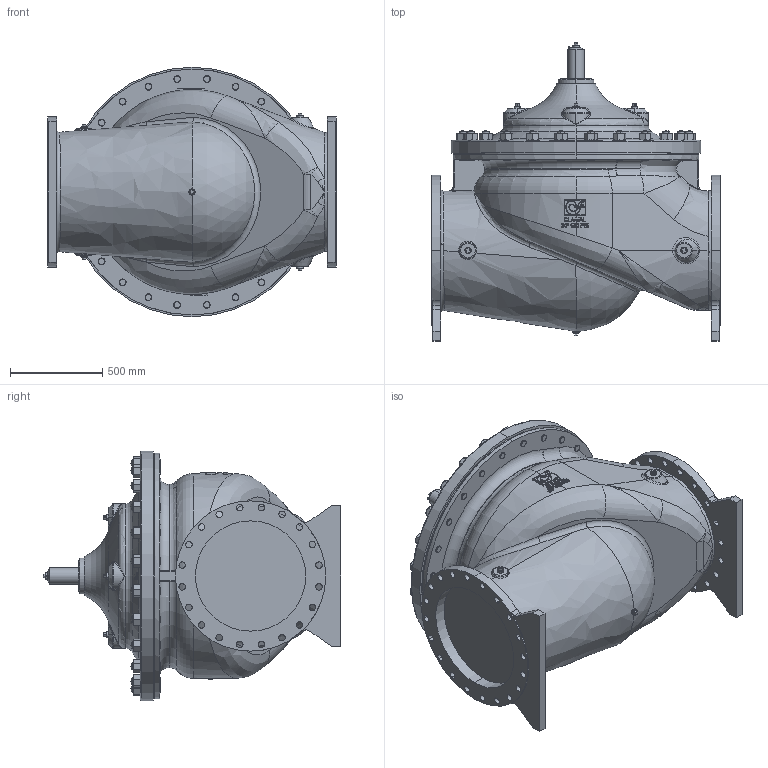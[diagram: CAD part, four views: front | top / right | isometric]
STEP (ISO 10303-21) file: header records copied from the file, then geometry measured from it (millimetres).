
FILE_DESCRIPTION (( 'STEP AP203' ), '1' );
FILE_NAME ('24in Hytrol 150A.STEP', '2016-06-22T20:14:02', ( '' ), ( '' ), 'SwSTEP 2.0', 'SolidWorks 2016', '' );
FILE_SCHEMA (( 'CONFIG_CONTROL_DESIGN' ));
Length unit declared in the file: inch
Products named in the file (9): 24in Body HyGl150 STD_Default  DI 150 FLAT FACE; 24in Hytrol 150A; 24in Cover, 100-01_DI; 25724 Housing Cover Bearing 18-24in 10001_316 SST 24in; STUD 1.500-12 UNF (25778)_STEEL 6.38LG; Hexnut 1.500-12 UNF (67825)_NUT, HEX HEAVY  67825-18C; PURGE VALVE .125 NPT (90287-118F); 1.0 NPT SQ HD PIPE PLUG (67660)_316 SST; Bolt .500-13 UNC  (67607)_1.75   67607-53B
Assembly tree (70 placements, depth 2):
  24in Hytrol 150A
    24in Body HyGl150 STD_Default  DI 150 FLAT FACE
    24in Cover, 100-01_DI
    25724 Housing Cover Bearing 18-24in 10001_316 SST 24in
    STUD 1.500-12 UNF (25778)_STEEL 6.38LG  x24
    Hexnut 1.500-12 UNF (67825)_NUT, HEX HEAVY  67825-18C  x24
    PURGE VALVE .125 NPT (90287-118F)
    1.0 NPT SQ HD PIPE PLUG (67660)_316 SST  x10
    Bolt .500-13 UNC  (67607)_1.75   67607-53B  x8
Bounding box: 1562.1 x 1611.88 x 1350.26 mm (x, y, z)
Volume: 1132945592.2 mm3; surface area: 16036338.8 mm2
Topology: 71 solids, 71 shells, 2881 faces, 6578 edges, 3788 vertices
Faces by surface type: cylinder 929, cone 762, plane 629, bspline 278, torus 142, sphere 141
Entity records: 70377 total; most frequent: CARTESIAN_POINT 33910, ORIENTED_EDGE 7184, DIRECTION 6857, EDGE_CURVE 3592, AXIS2_PLACEMENT_3D 2807, VERTEX_POINT 2166, EDGE_LOOP 1830, FACE_OUTER_BOUND 1508
